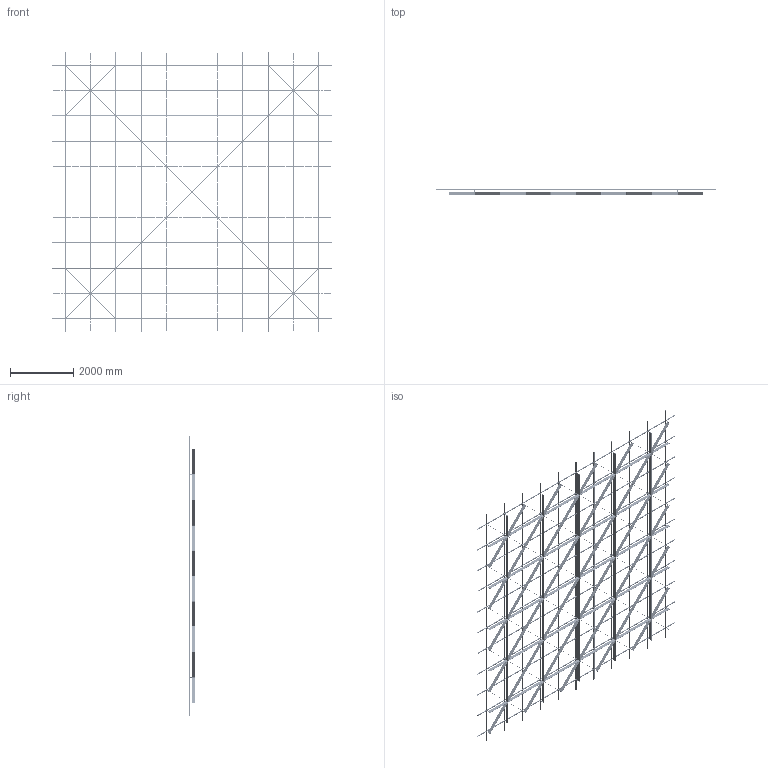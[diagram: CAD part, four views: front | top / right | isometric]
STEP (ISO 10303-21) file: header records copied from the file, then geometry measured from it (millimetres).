
FILE_DESCRIPTION (( 'STEP AP203' ), '1' );
FILE_NAME ('3 ìèäè ñ ïñ.step', '2025-11-26T11:23:48', ( '' ), ( '' ), 'SwSTEP 2.0', 'SolidWorks 2020', '' );
FILE_SCHEMA (( 'CONFIG_CONTROL_DESIGN' ));
Length unit declared in the file: millimetre
Products named in the file (5): Ñèñòåìà â çîíå 8000õ8000; 3 ìèäè ñ ïñ; SS.SEMA.2400 - Ñèìà-ïðîôèëü; SS.SEMA.2400 - Ñèìà-ïðîôèëü — îáðåçàí 1600; Var3
Assembly tree (90 placements, depth 3):
  3 ìèäè ñ ïñ
    Ñèñòåìà â çîíå 8000õ8000
      SS.SEMA.2400 - Ñèìà-ïðîôèëü  x66
      SS.SEMA.2400 - Ñèìà-ïðîôèëü — îáðåçàí 1600  x22
    Var3
Bounding box: 8800 x 205 x 8800 mm (x, y, z)
Volume: 171532707.9 mm3; surface area: 69528761.9 mm2
Topology: 572 solids, 572 shells, 18756 faces, 51428 edges, 33816 vertices
Faces by surface type: cylinder 12506, plane 6250
Entity records: 67575 total; most frequent: CARTESIAN_POINT 15898, ORIENTED_EDGE 9704, DIRECTION 9458, EDGE_CURVE 4852, AXIS2_PLACEMENT_3D 4480, VERTEX_POINT 3224, EDGE_LOOP 2762, ADVANCED_FACE 2600
